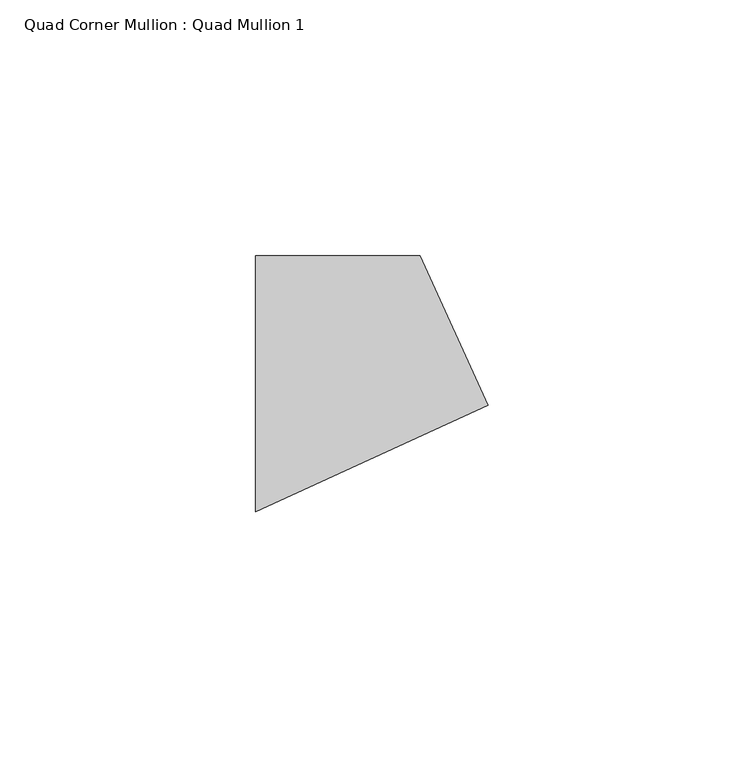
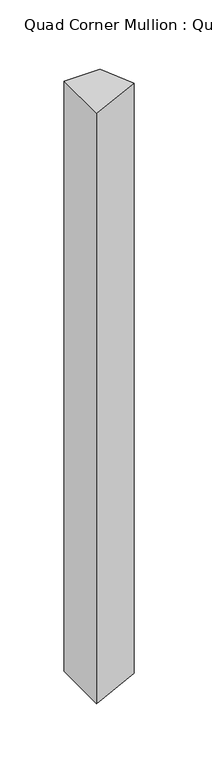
"""IFC4 building model written with IfcOpenShell, lengths in millimetres: member geometry, Quad Corner Mullion : Quad Mullion 1."""

from ifc_helpers import new_model, si_unit, frame, origin, place, context, project, spatial, polyline, outline, extrude, source, transform, mapped, element, save


def quad_corner_mullion_quad_mullion_1_3f35b4be(model_context):
    return source(origin(), model_context, "Body", "SweptSolid", [
        extrude(outline(polyline([(29.4125559, -4.1926582), (-16.0523154, -25.0), (-16.0523154, 25.0), (16.0523154, 25.0), (29.4125559, -4.1926582)])), frame((0.0, 0.0, -558.5043744), z_axis=(0.0, 0.0, 1.0), x_axis=(1.0, 0.0, 0.0)), (0.0, 0.0, 1.0), 558.5043744),
    ])


if __name__ == "__main__":
    model = new_model("IFC4")
    model_context = context("Model", 3, world=origin())
    ifc_project = project(units=[si_unit("LENGTHUNIT", "METRE", prefix="MILLI")], contexts=[model_context])
    site = spatial("IfcSite", under=ifc_project)
    building = spatial("IfcBuilding", under=site)
    placement = place(None, origin())
    quad_corner_mullion_quad_mullion_1_shape = quad_corner_mullion_quad_mullion_1_3f35b4be(model_context)
    element("IfcMember", 1, ObjectType="Quad Corner Mullion : Quad Mullion 1", at=placement, inside=building, context=model_context, shape_type="MappedRepresentation", body=[
        mapped(quad_corner_mullion_quad_mullion_1_shape, transform((0.0, 0.0, 0.0), x_axis=(1.0, 0.0, 0.0), y_axis=(0.0, 1.0, 0.0), z_axis=(0.0, 0.0, 1.0))),
    ])
    save(model, "model.ifc")
